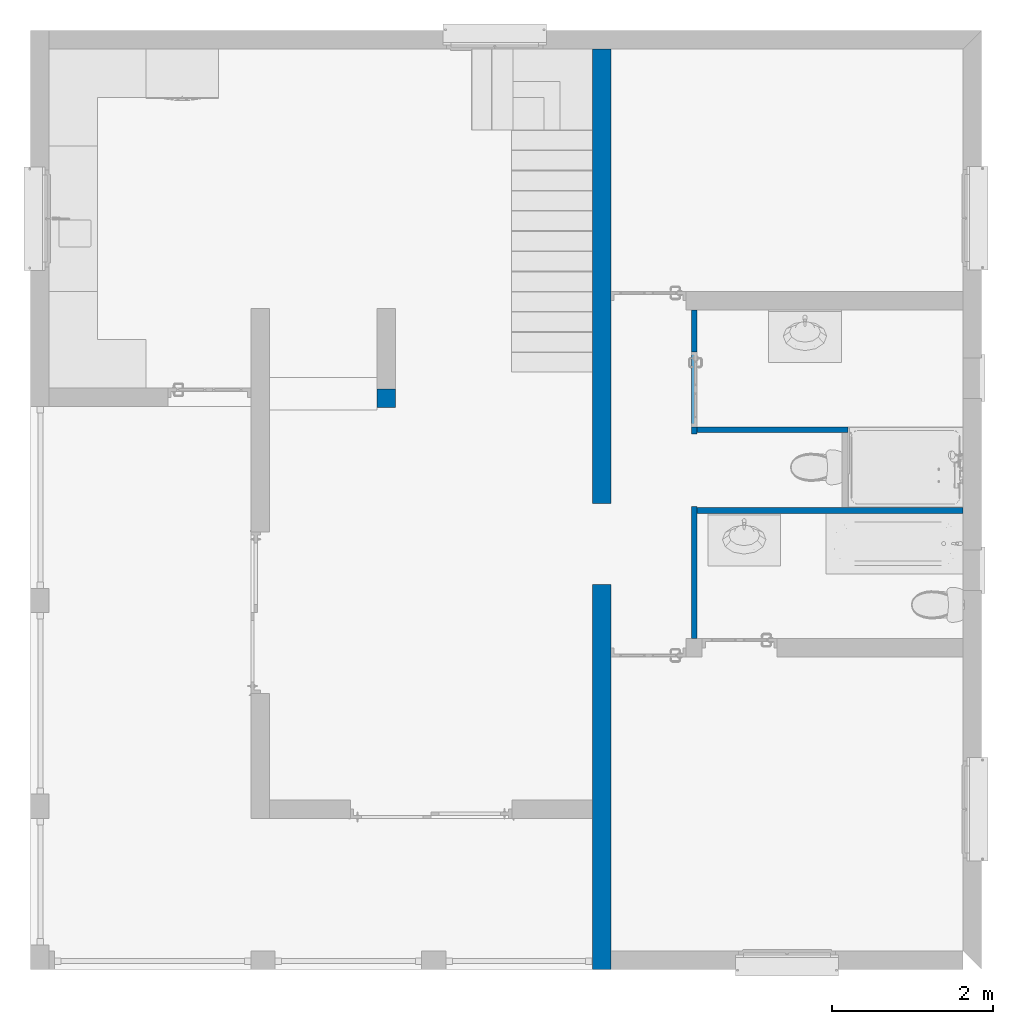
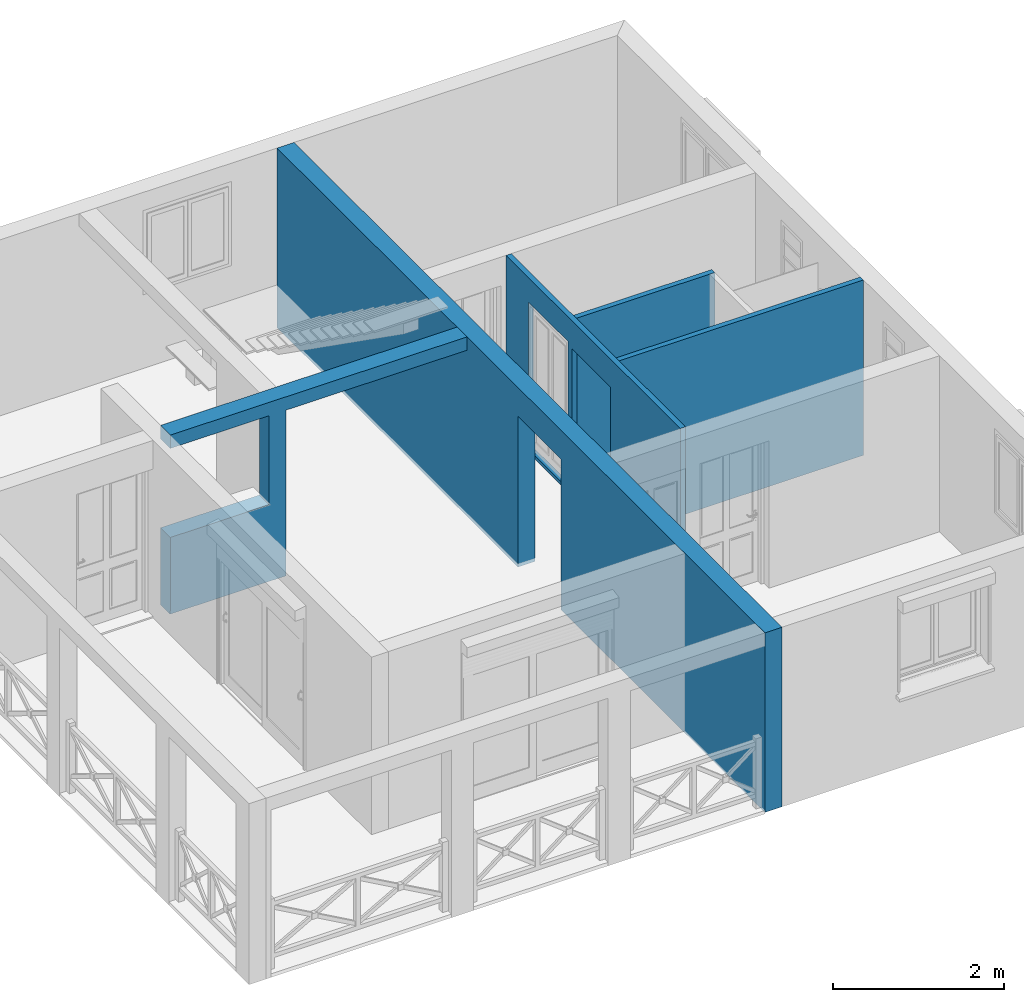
# One storey, part 10 of 17: 5 walls, 5 openings.
"""IFC2X3 building model written with IfcOpenShell, lengths in metres."""

from ifc_helpers import new_model, entity, si_unit, converted_unit, derived_unit, money_unit, direction, frame, origin_with_axes, origin_2d_with_axis, place, context, subcontext, project, spatial, polyline, rectangle, outline, extrude, boolean, faceted_brep, material, type_object, element, save


model = new_model("IFC2X3")

# Units and contexts
model_context = context("Model", 3, precision=1e-05, world=origin_with_axes(), true_north=direction((0.0, 1.0)))
body_context = subcontext(model_context, "Body", "Model", "MODEL_VIEW")
ifc_project = project(units=[si_unit("LENGTHUNIT", "METRE"), si_unit("AREAUNIT", "SQUARE_METRE"), si_unit("VOLUMEUNIT", "CUBIC_METRE"), converted_unit("PLANEANGLEUNIT", "DEGREE", entity("IfcPlaneAngleMeasure", 0.0174532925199), si_unit("PLANEANGLEUNIT", "RADIAN"), dimensions=[0, 0, 0, 0, 0, 0, 0]), si_unit("SOLIDANGLEUNIT", "STERADIAN"), money_unit("CHF"), converted_unit("TIMEUNIT", "Year", entity("IfcTimeMeasure", 31556926.0), si_unit("TIMEUNIT", "SECOND"), dimensions=[0, 0, 1, 0, 0, 0, 0]), si_unit("MASSUNIT", "GRAM", prefix="KILO"), si_unit("THERMODYNAMICTEMPERATUREUNIT", "DEGREE_CELSIUS"), si_unit("LUMINOUSINTENSITYUNIT", "LUMEN"), si_unit("ENERGYUNIT", "JOULE", prefix="MEGA"), derived_unit("THERMALCONDUCTANCEUNIT", [(si_unit("POWERUNIT", "WATT"), 1), (si_unit("LENGTHUNIT", "METRE"), -1), (si_unit("THERMODYNAMICTEMPERATUREUNIT", "KELVIN"), -1)]), derived_unit("SPECIFICHEATCAPACITYUNIT", [(si_unit("ENERGYUNIT", "JOULE"), 1), (si_unit("MASSUNIT", "GRAM", prefix="KILO"), -1), (si_unit("THERMODYNAMICTEMPERATUREUNIT", "KELVIN"), -1)]), derived_unit("MASSDENSITYUNIT", [(si_unit("MASSUNIT", "GRAM", prefix="KILO"), 1), (si_unit("VOLUMEUNIT", "CUBIC_METRE"), -1)])], contexts=[model_context])

# Site, building, storey
site_placement = place(None, origin_with_axes())
site = spatial("IfcSite", under=ifc_project, at=site_placement, Name="Site", CompositionType="ELEMENT")
building_placement = place(site_placement, origin_with_axes())
building = spatial("IfcBuilding", under=site, at=building_placement, Name="Bâtiment", CompositionType="ELEMENT")
storey_placement = place(building_placement, frame((0.0, 0.0, 3.0), z_axis=(0.0, 0.0, 1.0), x_axis=(1.0, 0.0, 0.0)))
storey = spatial("IfcBuildingStorey", under=building, at=storey_placement, Name="RDJ", CompositionType="ELEMENT", Elevation=3.0)

# Wall, openings
ifc_material = material(Name="Hachure solide 2628782308")
wall_type_1 = type_object("IfcWallType", Name="Hachure solide 2628782308 230", PredefinedType="NOTDEFINED")
wall_1_placement = place(storey_placement, frame((87.7435190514, 14.1414124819, -3.05), z_axis=(0.0, 0.0, 1.0), x_axis=(1.0, 0.0, 0.0)))
wall_1 = element("IfcWall", 1, at=wall_1_placement, inside=storey, type_object=wall_type_1, material=ifc_material, Name="MurExt-005", context=body_context, shape_type="CSG", body=[
    boolean("DIFFERENCE", extrude(outline(polyline([(-0.23, 0.0), (4.0, 0.0), (4.0, 0.23), (-0.23, 0.23), (-0.23, 0.0)])), origin_with_axes(), (0.0, 0.0, 1.0), 2.56), faceted_brep([(1.56200000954, 0.23, 0.0), (1.56200000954, 0.23, 0.05), (4.00000000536, 0.23, 0.05), (4.0, 0.23, 0.0), (1.56200000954, 0.00892851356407, 0.0), (1.56200000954, 0.00892851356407, 0.05), (4.00000000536, 0.0, 0.05), (-1.31130377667e-08, 0.00892851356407, 0.05), (-1.31130377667e-08, 0.0, 0.05), (4.0, 0.0, 0.0), (-0.23, 0.0, 0.0), (-0.23, 0.23, 0.0), (0.0, 0.23, 0.0), (-1.31130377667e-08, 0.00892851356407, 0.0), (0.0, 0.23, 1.11), (0.0, 0.0, 1.11), (0.0, 0.0, 1.13), (0.0, 0.0, 2.56), (-0.23, 0.0, 2.56), (1.332, 0.0, 1.11), (1.332, 0.0, 1.13), (-0.23, 0.23, 2.56), (0.0, 0.23, 2.56), (0.0, 0.23, 1.13), (1.332, 0.23, 1.13), (1.332, 0.23, 1.11)], [[[0, 1, 2, 3]], [[1, 0, 4, 5]], [[6, 2, 1, 5, 7, 8]], [[2, 6, 9, 3]], [[4, 0, 3, 9, 10, 11, 12, 13]], [[4, 13, 7, 5]], [[12, 14, 15, 8, 7, 13]], [[16, 17, 18, 10, 9, 6, 8, 15, 19, 20]], [[21, 11, 10, 18]], [[14, 12, 11, 21, 22, 23, 24, 25]], [[14, 25, 19, 15]], [[23, 22, 17, 16]], [[17, 22, 21, 18]], [[25, 24, 20, 19]], [[24, 23, 16, 20]]])),
])
opening_1_placement = place(wall_1_placement, frame((0.666, 0.0, 1.1), z_axis=(0.0, 0.0, 1.0), x_axis=(1.0, 0.0, 0.0)))
element("IfcOpeningElement", 2, at=opening_1_placement, cuts=wall_1, Name="Por-049", context=body_context, shape_type="SweptSolid", body=[
    extrude(rectangle(XDim=1.332, YDim=1.27, at=origin_2d_with_axis()), frame((0.0, -0.23, 0.635), z_axis=(0.0, -1.0, 0.0), x_axis=(1.0, 0.0, 0.0)), (0.0, 0.0, -1.0), 0.69),
])
opening_2_placement = place(wall_1_placement, frame((2.781, 0.0, 0.0), z_axis=(0.0, 0.0, 1.0), x_axis=(1.0, 0.0, 0.0)))
element("IfcOpeningElement", 3, at=opening_2_placement, cuts=wall_1, Name="Por-049", context=body_context, shape_type="SweptSolid", body=[
    extrude(rectangle(XDim=2.438, YDim=2.37, at=origin_2d_with_axis()), frame((0.0, -0.23, 1.185), z_axis=(0.0, -1.0, 0.0), x_axis=(1.0, 0.0, 0.0)), (0.0, 0.0, -1.0), 0.69),
])

# Wall, opening
wall_2_placement = place(storey_placement, frame((91.9735190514, 18.8103410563, -3.05), z_axis=(0.0, 0.0, 1.0), x_axis=(0.0, -1.0, 0.0)))
wall_2 = element("IfcWall", 4, at=wall_2_placement, inside=storey, type_object=wall_type_1, material=ifc_material, Name="MurExt-008", context=body_context, shape_type="CSG", body=[
    boolean("DIFFERENCE", boolean("DIFFERENCE", extrude(outline(polyline([(0.0, -0.23), (11.63, -0.23), (11.63, 0.0), (0.0, 0.0), (0.0, -0.23)])), origin_with_axes(), (0.0, 0.0, 1.0), 2.56), faceted_brep([(6.86000001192, 1.78813763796e-09, 0.05), (6.86000001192, 1.78813763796e-09, 0.0), (5.86000004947, 1.78813763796e-09, 0.0), (5.86000004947, 1.78813763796e-09, 0.05), (6.86000001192, -0.229999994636, 0.05), (6.86000001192, -0.229999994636, 0.0), (5.86000004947, -0.229999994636, 0.0), (5.86000004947, -0.229999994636, 0.05)], [[[0, 1, 2, 3]], [[1, 0, 4, 5]], [[6, 2, 1, 5]], [[3, 2, 6, 7]], [[0, 3, 7, 4]], [[7, 6, 5, 4]]])), faceted_brep([(0.23, -0.23, 2.56), (0.23, 0.0, 2.56), (0.0, 0.0, 2.56), (0.0, -0.23, 2.56), (0.23, 0.0, 0.0), (0.23, -0.23, 0.0), (0.0, 0.0, 0.0), (0.0, -0.23, 0.0)], [[[0, 1, 2, 3]], [[4, 1, 0, 5]], [[1, 4, 6, 2]], [[2, 6, 7, 3]], [[5, 0, 3, 7]], [[4, 5, 7, 6]]])),
])
opening_3_placement = place(wall_2_placement, frame((6.36, 0.0, 0.05), z_axis=(0.0, 0.0, 1.0), x_axis=(1.0, 0.0, 0.0)))
element("IfcOpeningElement", 5, at=opening_3_placement, cuts=wall_2, Name="Por-049", context=body_context, shape_type="SweptSolid", body=[
    extrude(rectangle(XDim=1.0, YDim=2.1, at=origin_2d_with_axis()), frame((0.0, -0.23, 1.05), z_axis=(0.0, -1.0, 0.0), x_axis=(1.0, 0.0, 0.0)), (0.0, 0.0, -1.0), 0.69),
])

# Walls
wall_type_2 = type_object("IfcWallType", Name="Hachure solide 2628782308 70", PredefinedType="NOTDEFINED")
wall_3_placement = place(storey_placement, frame((92.9690132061, 13.9003410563, -2.99), z_axis=(0.0, 0.0, 1.0), x_axis=(1.0, 0.0, 0.0)))
element("IfcWall", 6, at=wall_3_placement, inside=storey, type_object=wall_type_2, material=ifc_material, Name="MurExt-011", context=body_context, shape_type="CSG", body=[
    boolean("DIFFERENCE", extrude(outline(polyline([(0.0, -0.07), (1.93690934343, -0.07), (1.93690934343, 0.0), (0.0, 0.0), (0.0, -0.07)])), origin_with_axes(), (0.0, 0.0, 1.0), 2.55), faceted_brep([(1.93690934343, -0.07, 2.5), (1.93690934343, 0.0, 2.5), (1.93690934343, 0.0, 2.55), (1.93690934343, -0.07, 2.55), (0.07, 0.0, 2.5), (0.07, -0.07, 2.5), (0.07, 0.0, 0.0), (0.0, 0.0, 0.0), (0.0, 0.0, 2.55), (0.0, -0.07, 2.55), (0.0, -0.07, 0.0), (0.07, -0.07, 0.0)], [[[0, 1, 2, 3]], [[4, 1, 0, 5]], [[4, 6, 7, 8, 2, 1]], [[8, 9, 3, 2]], [[5, 0, 3, 9, 10, 11]], [[6, 4, 5, 11]], [[6, 11, 10, 7]], [[8, 7, 10, 9]]])),
])
wall_4_placement = place(storey_placement, frame((92.9690132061, 12.9003410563, -2.99), z_axis=(0.0, 0.0, 1.0), x_axis=(1.0, 0.0, 0.0)))
element("IfcWall", 7, at=wall_4_placement, inside=storey, type_object=wall_type_2, material=ifc_material, Name="MurExt-011", context=body_context, shape_type="CSG", body=[
    boolean("DIFFERENCE", boolean("DIFFERENCE", extrude(outline(polyline([(0.0, -0.07), (3.59450584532, -0.07), (3.59450584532, 0.0), (0.0, 0.0), (0.0, -0.07)])), origin_with_axes(), (0.0, 0.0, 1.0), 2.5), faceted_brep([(0.07, -0.07, 2.5), (0.07, 0.0, 2.5), (0.0, 0.0, 2.5), (0.0, -0.07, 2.5), (0.07, 0.0, 0.0), (0.07, -0.07, 0.0), (0.0, 0.0, 0.0), (0.0, -0.07, 0.0)], [[[0, 1, 2, 3]], [[4, 1, 0, 5]], [[1, 4, 6, 2]], [[2, 6, 7, 3]], [[5, 0, 3, 7]], [[4, 5, 7, 6]]])), faceted_brep([(3.36450584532, 0.0, 0.0), (3.36450584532, 0.0, 2.5), (3.59450584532, 0.0, 2.5), (3.59450584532, 0.0, 0.0), (3.36450584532, -0.07, 2.5), (3.36450584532, -0.07, 0.0), (3.59450584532, -0.07, 2.5), (3.59450584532, -0.07, 0.0)], [[[0, 1, 2, 3]], [[4, 1, 0, 5]], [[1, 4, 6, 2]], [[6, 7, 3, 2]], [[5, 0, 3, 7]], [[4, 5, 7, 6]]])),
])

# Wall, openings
wall_5_placement = place(storey_placement, frame((92.9690132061, 11.2803410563, -2.99), z_axis=(0.0, 0.0, 1.0), x_axis=(0.0, 1.0, 0.0)))
wall_5 = element("IfcWall", 8, at=wall_5_placement, inside=storey, type_object=wall_type_2, material=ifc_material, Name="MurExt-010", context=body_context, shape_type="CSG", body=[
    boolean("DIFFERENCE", extrude(outline(polyline([(-0.23, -0.07), (4.3, -0.07), (4.3, 0.0), (-0.23, 0.0), (-0.23, -0.07)])), origin_with_axes(), (0.0, 0.0, 1.0), 2.55), faceted_brep([(0.0, -0.07, 0.0), (0.0, -0.07, 2.5), (4.07, -0.07, 2.5), (4.07, -0.07, 0.0), (4.3, -0.07, 0.0), (4.3, -0.07, 2.55), (-0.23, -0.07, 2.55), (-0.23, -0.07, 0.0), (0.0, 0.0, 0.0), (0.0, 0.0, 2.5), (4.07, 0.0, 2.5), (4.07, 0.0, 0.0), (4.3, 0.0, 0.0), (4.3, 0.0, 2.55), (-0.23, 0.0, 2.55), (-0.23, 0.0, 0.0)], [[[0, 1, 2, 3, 4, 5, 6, 7]], [[1, 0, 8, 9]], [[2, 1, 9, 10]], [[3, 2, 10, 11]], [[3, 11, 12, 4]], [[5, 4, 12, 13]], [[14, 6, 5, 13]], [[14, 15, 7, 6]], [[8, 0, 7, 15]], [[9, 8, 15, 14, 13, 12, 11, 10]]])),
])
opening_4_placement = place(wall_5_placement, frame((2.085, 0.0, 0.0), z_axis=(0.0, 0.0, 1.0), x_axis=(1.0, 0.0, 0.0)))
element("IfcOpeningElement", 9, at=opening_4_placement, cuts=wall_5, Name="Por-052", context=body_context, shape_type="SweptSolid", body=[
    extrude(rectangle(XDim=0.9, YDim=2.1, at=origin_2d_with_axis()), frame((0.0, 0.07, 1.05), z_axis=(0.0, -1.0, 0.0), x_axis=(1.0, 0.0, 0.0)), (0.0, 0.0, 1.0), 0.21),
])
opening_5_placement = place(wall_5_placement, frame((3.085, 0.0, 0.05), z_axis=(0.0, 0.0, 1.0), x_axis=(1.0, 0.0, 0.0)))
element("IfcOpeningElement", 10, at=opening_5_placement, cuts=wall_5, Name="Por-052", context=body_context, shape_type="SweptSolid", body=[
    extrude(rectangle(XDim=0.93, YDim=2.1, at=origin_2d_with_axis()), frame((0.0, 0.07, 1.05), z_axis=(0.0, -1.0, 0.0), x_axis=(-1.0, 0.0, 0.0)), (0.0, 0.0, 1.0), 0.21),
])

save(model, "model.ifc")
